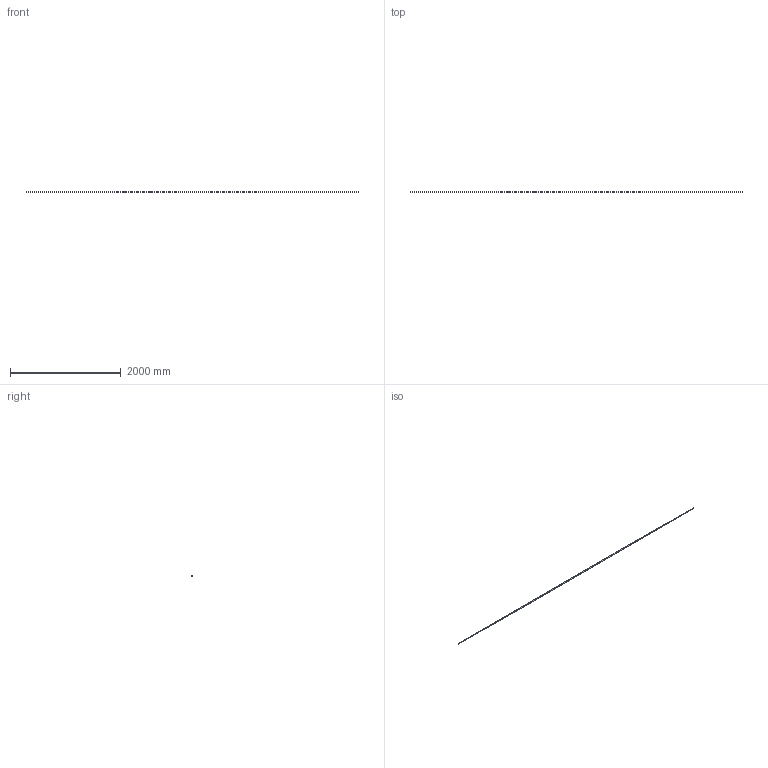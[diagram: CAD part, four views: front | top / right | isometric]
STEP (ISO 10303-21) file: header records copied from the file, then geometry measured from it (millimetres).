
FILE_DESCRIPTION (( 'STEP AP214' ), '1' );
FILE_NAME ('P150000.STEP', '2025-08-17T14:44:39', ( '' ), ( '' ), 'SwSTEP 2.0', 'SolidWorks 2020', '' );
FILE_SCHEMA (( 'AUTOMOTIVE_DESIGN' ));
Length unit declared in the file: millimetre
Products named in the file (1): P150000
Bounding box: 6000 x 15 x 15 mm (x, y, z)
Volume: 263893.8 mm3; surface area: 527875.5 mm2
Topology: 1 solids, 1 shells, 6 faces, 12 edges, 8 vertices
Faces by surface type: cylinder 4, plane 2
Entity records: 268 total; most frequent: DIRECTION 34, CARTESIAN_POINT 27, ORIENTED_EDGE 24, AXIS2_PLACEMENT_3D 15, EDGE_CURVE 12, UNCERTAINTY_MEASURE_WITH_UNIT 9, PRESENTATION_LAYER_ASSIGNMENT 8, FILL_AREA_STYLE 8
